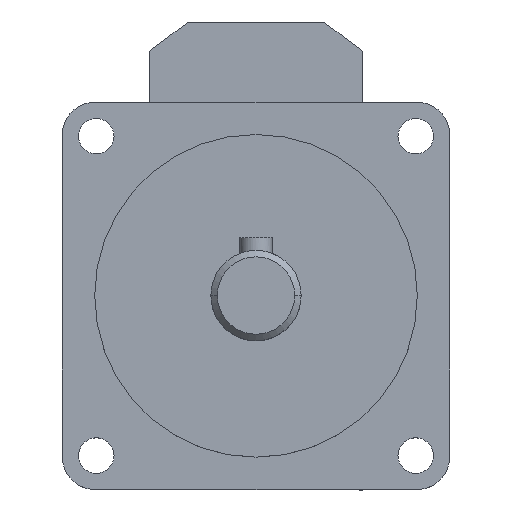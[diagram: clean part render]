
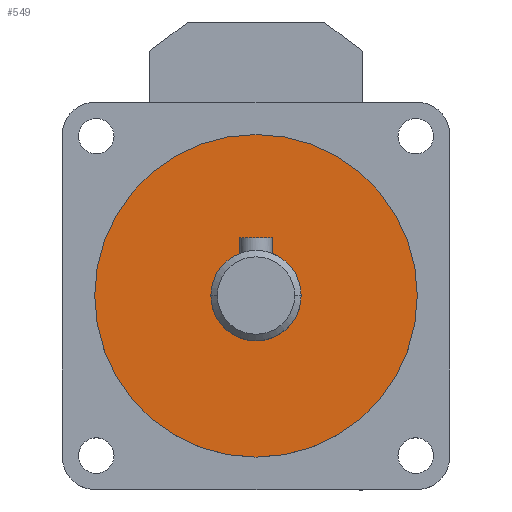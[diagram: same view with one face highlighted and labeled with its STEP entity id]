
A CAD part, top view. The second image highlights one B-rep face of the part: STEP entity #549.
In plain terms, the highlighted planar face has unit normal (0, 0, 1).
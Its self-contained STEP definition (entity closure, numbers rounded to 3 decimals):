
#72 = AXIS2_PLACEMENT_3D ( 'NONE', #826, #1828, #2016 ) ;
#93 = EDGE_CURVE ( 'NONE', #1057, #268, #396, .T. ) ;
#146 = CARTESIAN_POINT ( 'NONE',  ( -7., 0., 54.5 ) ) ;
#156 = FACE_OUTER_BOUND ( 'NONE', #629, .T. ) ;
#218 = EDGE_CURVE ( 'NONE', #873, #1479, #1477, .T. ) ;
#238 = ORIENTED_EDGE ( 'NONE', *, *, #93, .T. ) ;
#268 = VERTEX_POINT ( 'NONE', #1853 ) ;
#396 = CIRCLE ( 'NONE', #835, 25. ) ;
#398 = ORIENTED_EDGE ( 'NONE', *, *, #218, .F. ) ;
#417 = CARTESIAN_POINT ( 'NONE',  ( 7., 0., 54.5 ) ) ;
#438 = AXIS2_PLACEMENT_3D ( 'NONE', #1068, #555, #1062 ) ;
#447 = EDGE_CURVE ( 'NONE', #268, #1057, #1209, .T. ) ;
#482 = CARTESIAN_POINT ( 'NONE',  ( 0., 0., 54.5 ) ) ;
#549 = ADVANCED_FACE ( 'NONE', ( #1741, #156 ), #1404, .T. ) ;
#555 = DIRECTION ( 'NONE',  ( 0., 0., 1. ) ) ;
#605 = DIRECTION ( 'NONE',  ( 0., 0., 1. ) ) ;
#610 = DIRECTION ( 'NONE',  ( 1., 0., 0. ) ) ;
#629 = EDGE_LOOP ( 'NONE', ( #238, #2121 ) ) ;
#685 = AXIS2_PLACEMENT_3D ( 'NONE', #482, #1174, #977 ) ;
#826 = CARTESIAN_POINT ( 'NONE',  ( 0., 0., 54.5 ) ) ;
#835 = AXIS2_PLACEMENT_3D ( 'NONE', #1623, #605, #610 ) ;
#841 = CARTESIAN_POINT ( 'NONE',  ( 0., 0., 54.5 ) ) ;
#873 = VERTEX_POINT ( 'NONE', #146 ) ;
#977 = DIRECTION ( 'NONE',  ( 1., 0., 0. ) ) ;
#1057 = VERTEX_POINT ( 'NONE', #1926 ) ;
#1062 = DIRECTION ( 'NONE',  ( 1., 0., 0. ) ) ;
#1068 = CARTESIAN_POINT ( 'NONE',  ( 0., 0., 54.5 ) ) ;
#1109 = EDGE_LOOP ( 'NONE', ( #398, #1378 ) ) ;
#1174 = DIRECTION ( 'NONE',  ( 0., 0., 1. ) ) ;
#1193 = DIRECTION ( 'NONE',  ( 0., 0., 1. ) ) ;
#1209 = CIRCLE ( 'NONE', #2020, 25. ) ;
#1227 = CIRCLE ( 'NONE', #72, 7. ) ;
#1357 = DIRECTION ( 'NONE',  ( 1., 0., 0. ) ) ;
#1378 = ORIENTED_EDGE ( 'NONE', *, *, #1804, .F. ) ;
#1404 = PLANE ( 'NONE',  #438 ) ;
#1477 = CIRCLE ( 'NONE', #685, 7. ) ;
#1479 = VERTEX_POINT ( 'NONE', #417 ) ;
#1623 = CARTESIAN_POINT ( 'NONE',  ( 0., 0., 54.5 ) ) ;
#1741 = FACE_BOUND ( 'NONE', #1109, .T. ) ;
#1804 = EDGE_CURVE ( 'NONE', #1479, #873, #1227, .T. ) ;
#1828 = DIRECTION ( 'NONE',  ( 0., 0., 1. ) ) ;
#1853 = CARTESIAN_POINT ( 'NONE',  ( 25., 0., 54.5 ) ) ;
#1926 = CARTESIAN_POINT ( 'NONE',  ( -25., 0., 54.5 ) ) ;
#2016 = DIRECTION ( 'NONE',  ( 1., 0., 0. ) ) ;
#2020 = AXIS2_PLACEMENT_3D ( 'NONE', #841, #1193, #1357 ) ;
#2121 = ORIENTED_EDGE ( 'NONE', *, *, #447, .T. ) ;
